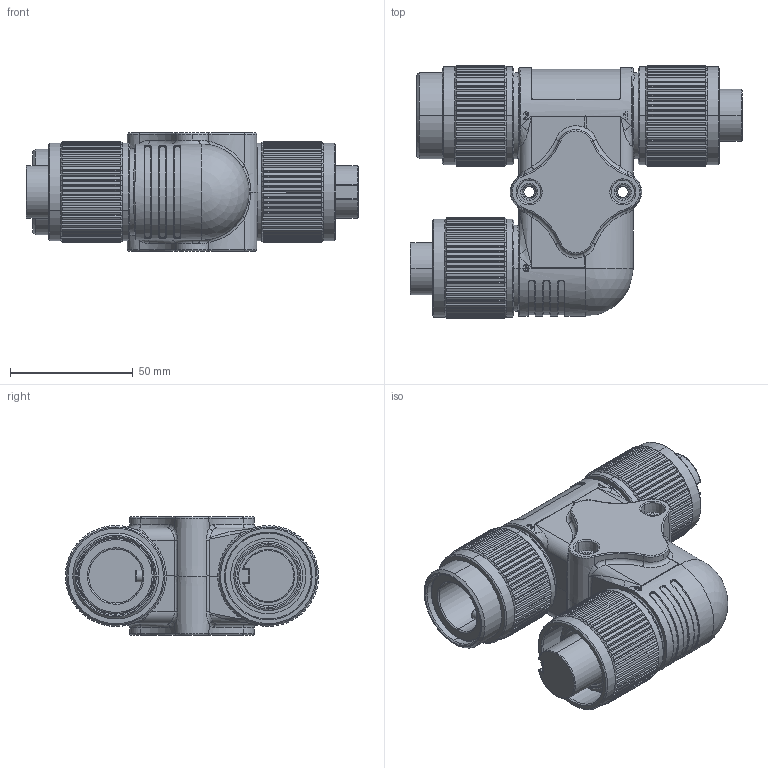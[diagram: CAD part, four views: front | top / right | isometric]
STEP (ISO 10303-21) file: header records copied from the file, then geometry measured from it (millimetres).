
FILE_DESCRIPTION (( 'STEP AP203' ), '1' );
FILE_NAME ('SH-GKD-GSD-GKD.step', '2014-02-18T20:43:44', ( 'Turck User' ), ( '' ), 'SwSTEP 2.0', 'SolidWorks 2013', '' );
FILE_SCHEMA (( 'CONFIG_CONTROL_DESIGN' ));
Length unit declared in the file: millimetre
Products named in the file (1): SH-GKD-GSD-GKD
Bounding box: 135 x 103.01 x 48 mm (x, y, z)
Volume: 295489.2 mm3; surface area: 49748.4 mm2
Topology: 1 solids, 2 shells, 1043 faces, 2834 edges, 1803 vertices
Faces by surface type: plane 454, cylinder 306, bspline 147, cone 76, torus 59, sphere 1
Entity records: 43189 total; most frequent: CARTESIAN_POINT 19293, ORIENTED_EDGE 5632, DIRECTION 4239, EDGE_CURVE 2816, VERTEX_POINT 1802, AXIS2_PLACEMENT_3D 1657, EDGE_LOOP 1074, FACE_OUTER_BOUND 1043
